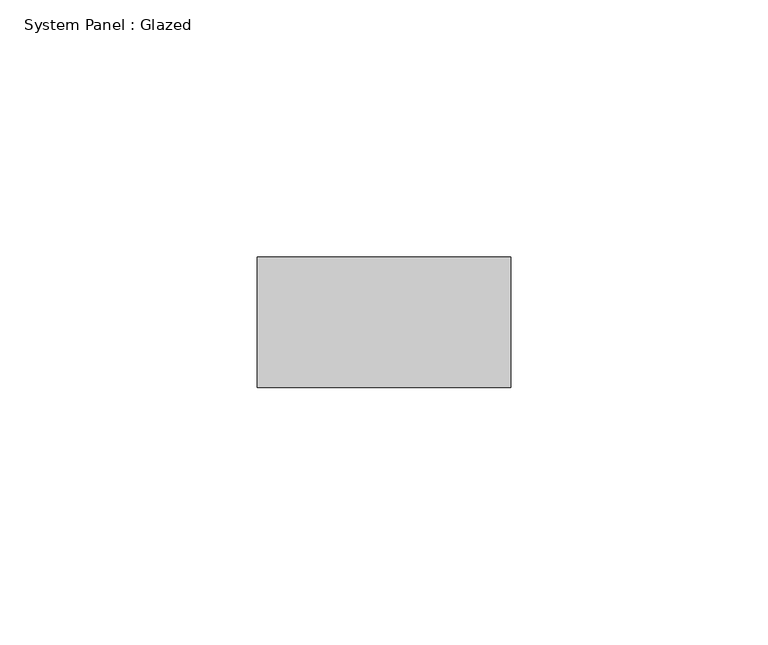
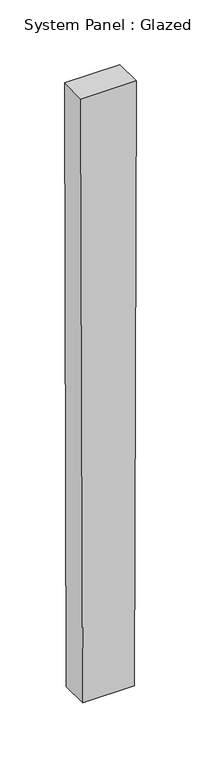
"""IFC4 building model written with IfcOpenShell, lengths in millimetres: plate geometry, System Panel : Glazed."""

from ifc_helpers import new_model, si_unit, frame, origin, place, context, project, spatial, polyline, outline, extrude, source, transform, mapped, element, save


def system_panel_glazed_18511c49(model_context):
    return source(origin(), model_context, "Body", "SweptSolid", [
        extrude(outline(polyline([(0.0, -23.1237332), (0.0, 23.1237332), (571.4977456, 24.6779907), (571.4977456, -24.6779907), (0.0, -23.1237332)])), frame((0.0, -44.45, 0.0), z_axis=(0.0, 1.0, 0.0), x_axis=(0.0, 0.0, 1.0)), (0.0, 0.0, 1.0), 25.4),
    ])


if __name__ == "__main__":
    model = new_model("IFC4")
    model_context = context("Model", 3, world=origin())
    ifc_project = project(units=[si_unit("LENGTHUNIT", "METRE", prefix="MILLI")], contexts=[model_context])
    site = spatial("IfcSite", under=ifc_project)
    building = spatial("IfcBuilding", under=site)
    placement = place(None, origin())
    system_panel_glazed_shape = system_panel_glazed_18511c49(model_context)
    element("IfcPlate", 1, ObjectType="System Panel : Glazed", at=placement, inside=building, context=model_context, shape_type="MappedRepresentation", body=[
        mapped(system_panel_glazed_shape, transform((0.0, 0.0, 0.0), x_axis=(1.0, 0.0, 0.0), y_axis=(0.0, 1.0, 0.0), z_axis=(0.0, 0.0, 1.0))),
    ])
    save(model, "model.ifc")
